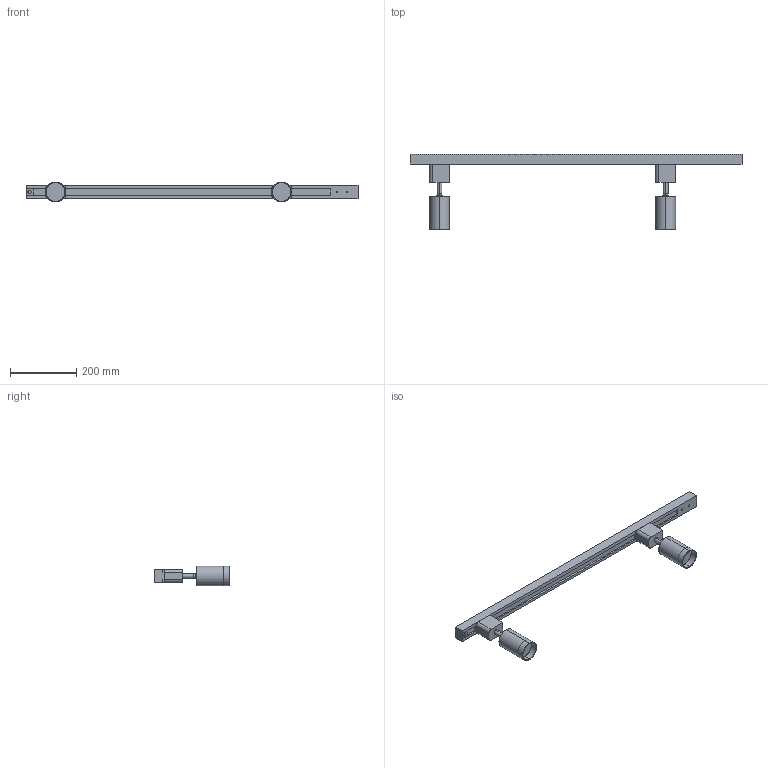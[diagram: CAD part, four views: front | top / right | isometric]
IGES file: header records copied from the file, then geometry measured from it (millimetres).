
Start section: SolidWorks IGES file using analytic representation for surfaces
Global section: file name: F:\燠隴矨\3D\2025-7\Sleek Cylinder Track Light-Small 2light L100CM.IGS,15; native system: HSolidWorks 2022; preprocessor: SolidWorks 2022; author: MyPC; date: 250707.162229; units: millimetre
Bounding box: 1000 x 228 x 60 mm (x, y, z)
Surface area: 246221.3 mm2 (no closed solid volume)
Topology: 0 solids, 0 shells, 93 faces, 1476 edges, 1476 vertices
Faces by surface type: bspline 67, revolution 26
